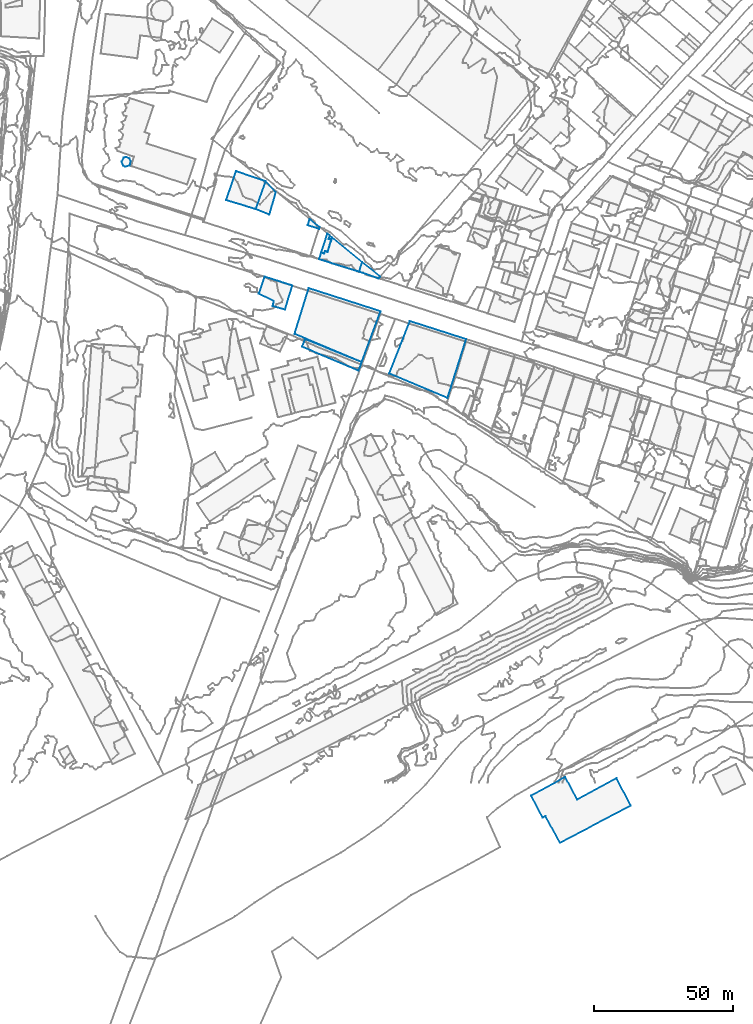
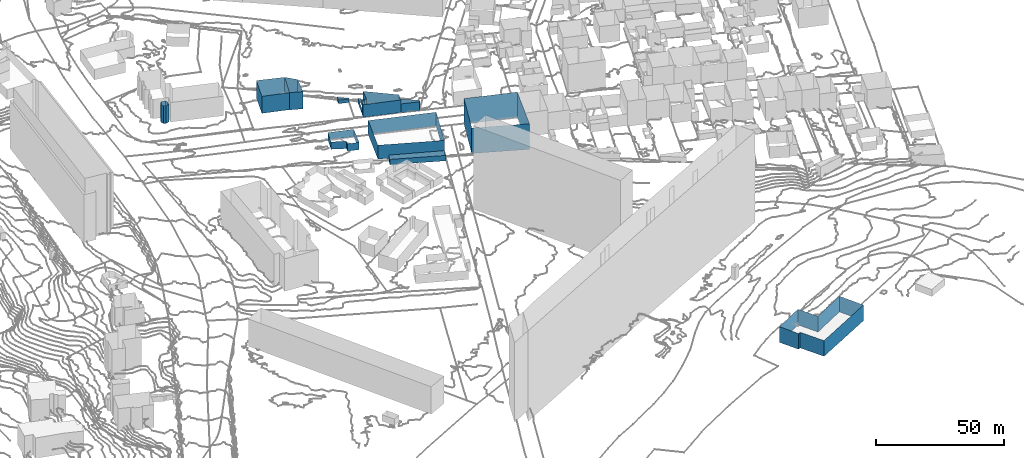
# Not in any storey, part 38 of 419: 12 walls.
"""IFC2X3 model written with IfcOpenShell, lengths in metres."""

from ifc_helpers import new_model, si_unit, frame, origin_with_axes, place, context, subcontext, project, faceted_brep, element, save


model = new_model("IFC2X3")

# Units and contexts
model_context = context("Model", 3, precision=1e-05, world=origin_with_axes())
body_context = subcontext(model_context, "Body", "Model", "MODEL_VIEW")
ifc_project = project(units=[si_unit("AREAUNIT", "SQUARE_METRE"), si_unit("LENGTHUNIT", "METRE")], contexts=[model_context])

# Walls
wall_1_placement = place(None, frame((765.6920204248, 173.8976909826, 76.811498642), z_axis=(0.0, 0.0, 1.0), x_axis=(1.0, 0.0, 0.0)))
element("IfcWall", 1, at=wall_1_placement, Name="Mur 0", context=body_context, shape_type="Brep", body=[
    faceted_brep([(5.4, -2.5999999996, 3.488501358), (0.0, 0.0, 3.488501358), (5.4, -2.5999999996, 0.0), (0.0, 0.0, 0.0), (5.0, -4.4000000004, 3.488501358), (5.0, -4.4000000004, 0.0), (9.4, -5.7000000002, 3.488501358), (9.4, -5.7000000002, 0.0), (12.0, 3.0, 3.488501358), (12.0, 3.0, 0.0), (2.1, 6.0999999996, 3.488501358), (2.1, 6.0999999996, 0.0)], [[[0, 1, 2]], [[2, 1, 3]], [[4, 0, 5]], [[5, 0, 2]], [[6, 4, 7]], [[7, 4, 5]], [[8, 6, 9]], [[9, 6, 7]], [[1, 10, 3]], [[3, 10, 11]], [[10, 8, 11]], [[11, 8, 9]]]),
])
wall_2_placement = place(None, frame((753.9920204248, 207.4976909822, 77.5985978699), z_axis=(0.0, 0.0, 1.0), x_axis=(1.0, 0.0, 0.0)))
element("IfcWall", 2, at=wall_2_placement, Name="Mur 0", context=body_context, shape_type="Brep", body=[
    faceted_brep([(0.0, 0.0, 8.1014021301), (3.5, 10.4000000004, 8.1014021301), (0.0, 0.0, 0.0), (3.5, 10.4000000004, 0.0), (10.6, -3.1999999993, 8.1014021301), (10.6, -3.1999999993, 0.0), (14.2, 6.8000000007, 8.1014021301), (14.2, 6.8000000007, 0.0)], [[[0, 1, 2]], [[2, 1, 3]], [[4, 0, 5]], [[5, 0, 2]], [[1, 6, 3]], [[3, 6, 7]], [[6, 4, 7]], [[7, 4, 5]]]),
])
wall_3_placement = place(None, frame((787.2920204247, 186.2976909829, 76.8846023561), z_axis=(0.0, 0.0, 1.0), x_axis=(1.0, 0.0, 0.0)))
element("IfcWall", 3, at=wall_3_placement, Name="Mur 0", context=body_context, shape_type="Brep", body=[
    faceted_brep([(14.4, -4.5, 6.0153976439), (0.0, 0.0, 6.0153976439), (14.4, -4.5, 0.0), (0.0, 0.0, 0.0), (15.5, -1.1000000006, 6.0153976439), (15.5, -1.1000000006, 0.0), (4.6000000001, 7.8999999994, 6.0153976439), (4.6000000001, 7.8999999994, 0.0), (3.1000000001, 2.5999999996, 6.0153976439), (3.1000000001, 2.5999999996, 0.0), (2.2000000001, 3.0, 6.0153976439), (2.2000000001, 3.0, 0.0), (1.9, 2.0, 6.0153976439), (1.9, 2.0, 0.0), (0.8, 2.3999999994, 6.0153976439), (0.8, 2.3999999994, 0.0)], [[[0, 1, 2]], [[2, 1, 3]], [[4, 0, 5]], [[5, 0, 2]], [[6, 4, 7]], [[7, 4, 5]], [[8, 6, 9]], [[9, 6, 7]], [[10, 8, 11]], [[11, 8, 9]], [[12, 10, 13]], [[13, 10, 11]], [[1, 14, 3]], [[3, 14, 15]], [[14, 12, 15]], [[15, 12, 13]]]),
])
wall_4_placement = place(None, frame((812.4920204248, 145.2976909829, 75.759199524), z_axis=(0.0, 0.0, 1.0), x_axis=(1.0, 0.0, 0.0)))
element("IfcWall", 4, at=wall_4_placement, Name="Mur 0", context=body_context, shape_type="Brep", body=[
    faceted_brep([(27.6, 12.2999999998, 12.140800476), (20.9, -8.8000000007, 12.140800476), (27.6, 12.2999999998, 0.0), (20.9, -8.8000000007, 0.0), (7.4, 18.7999999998, 12.140800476), (7.4, 18.7999999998, 0.0), (0.0, 0.0, 12.140800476), (0.0, 0.0, 0.0)], [[[0, 1, 2]], [[2, 1, 3]], [[4, 0, 5]], [[5, 0, 2]], [[1, 6, 3]], [[3, 6, 7]], [[6, 4, 7]], [[7, 4, 5]]]),
])
wall_5_placement = place(None, frame((778.4920204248, 159.4976909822, 76.3899993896), z_axis=(0.0, 0.0, 1.0), x_axis=(1.0, 0.0, 0.0)))
element("IfcWall", 5, at=wall_5_placement, Name="Mur 0", context=body_context, shape_type="Brep", body=[
    faceted_brep([(24.1, -10.0999999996, 6.6100006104), (0.0, 0.0, 6.6100006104), (24.1, -10.0999999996, 0.0), (0.0, 0.0, 0.0), (30.9, 8.1000000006, 6.6100006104), (30.9, 8.1000000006, 0.0), (5.1, 16.4000000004, 6.6100006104), (5.1, 16.4000000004, 0.0)], [[[0, 1, 2]], [[2, 1, 3]], [[4, 0, 5]], [[5, 0, 2]], [[1, 6, 3]], [[3, 6, 7]], [[6, 4, 7]], [[7, 4, 5]]]),
])
wall_6_placement = place(None, frame((801.6920204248, 181.7976909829, 76.7789985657), z_axis=(0.0, 0.0, 1.0), x_axis=(1.0, 0.0, 0.0)))
element("IfcWall", 6, at=wall_6_placement, Name="Mur 0", context=body_context, shape_type="Brep", body=[
    faceted_brep([(7.0, -2.4000000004, 4.2210014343), (0.0, 0.0, 4.2210014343), (7.0, -2.4000000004, 0.0), (0.0, 0.0, 0.0), (7.6, -1.7000000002, 4.2210014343), (7.6, -1.7000000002, 0.0), (1.1, 3.3999999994, 4.2210014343), (1.1, 3.3999999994, 0.0)], [[[0, 1, 2]], [[2, 1, 3]], [[4, 0, 5]], [[5, 0, 2]], [[1, 6, 3]], [[3, 6, 7]], [[6, 4, 7]], [[7, 4, 5]]]),
])
wall_7_placement = place(None, frame((788.0920204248, 188.6976909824, 77.1070014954), z_axis=(0.0, 0.0, 1.0), x_axis=(1.0, 0.0, 0.0)))
element("IfcWall", 7, at=wall_7_placement, Name="Mur 0", context=body_context, shape_type="Brep", body=[
    faceted_brep([(1.1, -0.3999999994, 2.2929985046), (0.0, 0.0, 2.2929985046), (1.1, -0.3999999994, 0.0), (0.0, 0.0, 0.0), (1.4, 0.6000000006, 2.2929985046), (1.4, 0.6000000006, 0.0), (2.3, 0.2000000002, 2.2929985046), (2.3, 0.2000000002, 0.0), (3.7, 4.7000000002, 2.2929985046), (3.7, 4.7000000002, 0.0), (2.7, 4.9000000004, 2.2929985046), (2.7, 4.9000000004, 0.0), (3.1, 6.1000000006, 2.2929985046), (3.1, 6.1000000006, 0.0), (2.2, 6.7999999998, 2.2929985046), (2.2, 6.7999999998, 0.0)], [[[0, 1, 2]], [[2, 1, 3]], [[4, 0, 5]], [[5, 0, 2]], [[6, 4, 7]], [[7, 4, 5]], [[8, 6, 9]], [[9, 6, 7]], [[10, 8, 11]], [[11, 8, 9]], [[12, 10, 13]], [[13, 10, 11]], [[1, 14, 3]], [[3, 14, 15]], [[14, 12, 15]], [[15, 12, 13]]]),
])
wall_8_placement = place(None, frame((863.4920204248, -6.2023090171, 59.9319992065), z_axis=(0.0, 0.0, 1.0), x_axis=(1.0, 0.0, 0.0)))
element("IfcWall", 8, at=wall_8_placement, Name="Mur 0", context=body_context, shape_type="Brep", body=[
    faceted_brep([(30.6, 6.2999999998, 7.4680007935), (35.7, -3.6000000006, 7.4680007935), (30.6, 6.2999999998, 0.0), (35.7, -3.6000000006, 0.0), (16.5, -1.4000000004, 7.4680007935), (16.5, -1.4000000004, 0.0), (12.2, 6.6999999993, 7.4680007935), (12.2, 6.6999999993, 0.0), (0.0, 0.0, 7.4680007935), (0.0, 0.0, 0.0), (4.1, -7.8000000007, 7.4680007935), (4.1, -7.8000000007, 0.0), (5.1, -7.3000000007, 7.4680007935), (5.1, -7.3000000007, 0.0), (10.2999999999, -16.9000000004, 7.4680007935), (10.2999999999, -16.9000000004, 0.0)], [[[0, 1, 2]], [[2, 1, 3]], [[4, 0, 5]], [[5, 0, 2]], [[6, 4, 7]], [[7, 4, 5]], [[8, 6, 9]], [[9, 6, 7]], [[10, 8, 11]], [[11, 8, 9]], [[12, 10, 13]], [[13, 10, 11]], [[1, 14, 3]], [[3, 14, 15]], [[14, 12, 15]], [[15, 12, 13]]]),
])
wall_9_placement = place(None, frame((764.5920204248, 204.2976909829, 77.4841980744), z_axis=(0.0, 0.0, 1.0), x_axis=(1.0, 0.0, 0.0)))
element("IfcWall", 9, at=wall_9_placement, Name="Mur 0", context=body_context, shape_type="Brep", body=[
    faceted_brep([(0.0, 0.0, 8.2158019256), (3.6, 10.0, 8.2158019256), (0.0, 0.0, 0.0), (3.6, 10.0, 0.0), (4.9, -2.0, 8.2158019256), (4.9, -2.0, 0.0), (7.2, 6.0999999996, 8.2158019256), (7.2, 6.0999999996, 0.0)], [[[0, 1, 2]], [[2, 1, 3]], [[4, 0, 5]], [[5, 0, 2]], [[1, 6, 3]], [[3, 6, 7]], [[6, 4, 7]], [[7, 4, 5]]]),
])
wall_10_placement = place(None, frame((783.2920204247, 198.4976909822, 77.4196013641), z_axis=(0.0, 0.0, 1.0), x_axis=(1.0, 0.0, 0.0)))
element("IfcWall", 10, at=wall_10_placement, Name="Mur 0", context=body_context, shape_type="Brep", body=[
    faceted_brep([(4.2000000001, -0.6999999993, 1.5803986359), (4.0, -1.2999999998, 1.5803986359), (4.2000000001, -0.6999999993, 0.0), (4.0, -1.2999999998, 0.0), (0.6000000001, 2.2000000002, 1.5803986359), (0.6000000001, 2.2000000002, 0.0), (0.0, 0.0, 1.5803986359), (0.0, 0.0, 0.0)], [[[0, 1, 2]], [[2, 1, 3]], [[4, 0, 5]], [[5, 0, 2]], [[1, 6, 3]], [[3, 6, 7]], [[6, 4, 7]], [[7, 4, 5]]]),
])
wall_11_placement = place(None, frame((716.4920204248, 221.2976909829, 78.1391992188), z_axis=(0.0, 0.0, 1.0), x_axis=(1.0, 0.0, 0.0)))
element("IfcWall", 11, at=wall_11_placement, Name="Mur 0", context=body_context, shape_type="Brep", body=[
    faceted_brep([(1.4, 1.6999999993, 8.3608007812), (2.7999999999, 1.1999999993, 8.3608007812), (1.4, 1.6999999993, 0.0), (2.7999999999, 1.1999999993, 0.0), (0.7, 1.3999999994, 8.3608007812), (0.7, 1.3999999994, 0.0), (0.0, 0.0, 8.3608007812), (0.0, 0.0, 0.0), (0.5, -1.4000000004, 8.3608007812), (0.5, -1.4000000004, 0.0), (1.2, -1.8000000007, 8.3608007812), (1.2, -1.8000000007, 0.0), (2.9, -1.3000000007, 8.3608007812), (2.9, -1.3000000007, 0.0), (3.2, 0.2999999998, 8.3608007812), (3.2, 0.2999999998, 0.0)], [[[0, 1, 2]], [[2, 1, 3]], [[4, 0, 5]], [[5, 0, 2]], [[6, 4, 7]], [[7, 4, 5]], [[8, 6, 9]], [[9, 6, 7]], [[10, 8, 11]], [[11, 8, 9]], [[12, 10, 13]], [[13, 10, 11]], [[1, 14, 3]], [[3, 14, 15]], [[14, 12, 15]], [[15, 12, 13]]]),
])
wall_12_placement = place(None, frame((781.1920204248, 154.8976909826, 75.5269006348), z_axis=(0.0, 0.0, 1.0), x_axis=(1.0, 0.0, 0.0)))
element("IfcWall", 12, at=wall_12_placement, Name="Mur 0", context=body_context, shape_type="Brep", body=[
    faceted_brep([(0.0, 0.0, 2.5730993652), (1.1, 2.7000000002, 2.5730993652), (0.0, 0.0, 0.0), (1.1, 2.7000000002, 0.0), (20.3, -8.5999999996, 2.5730993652), (20.3, -8.5999999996, 0.0), (21.4, -5.5, 2.5730993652), (21.4, -5.5, 0.0)], [[[0, 1, 2]], [[2, 1, 3]], [[4, 0, 5]], [[5, 0, 2]], [[1, 6, 3]], [[3, 6, 7]], [[6, 4, 7]], [[7, 4, 5]]]),
])

save(model, "model.ifc")
